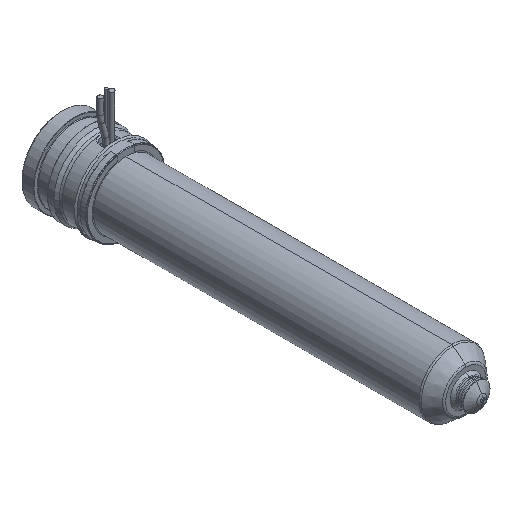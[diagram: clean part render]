
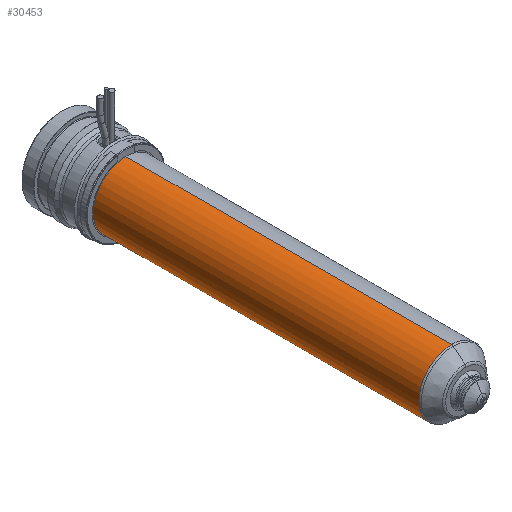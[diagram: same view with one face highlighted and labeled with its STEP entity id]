
A CAD part, isometric view. The second image highlights one B-rep face of the part: STEP entity #30453.
In plain terms, the highlighted cylindrical face has radius 12 mm (diameter 24 mm), a partial arc.
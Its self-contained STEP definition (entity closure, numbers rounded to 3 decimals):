
#29844=CARTESIAN_POINT('',(0.,-143.736,0.));
#29845=DIRECTION('',(0.,-1.,0.));
#29846=DIRECTION('',(0.,0.,1.));
#29847=AXIS2_PLACEMENT_3D('',#29844,#29845,#29846);
#29852=CARTESIAN_POINT('',(0.,-24.,0.));
#29853=DIRECTION('',(0.,1.,0.));
#29854=DIRECTION('',(0.,0.,-1.));
#29855=AXIS2_PLACEMENT_3D('',#29852,#29853,#29854);
#29860=DIRECTION('',(0.,1.,0.));
#29861=VECTOR('',#29860,119.736);
#29862=CARTESIAN_POINT('',(0.,-143.736,12.));
#29863=LINE('',#29862,#29861);
#29875=DIRECTION('',(0.,1.,0.));
#29876=VECTOR('',#29875,119.736);
#29877=CARTESIAN_POINT('',(0.,-143.736,-12.));
#29878=LINE('',#29877,#29876);
#30058=CARTESIAN_POINT('',(0.,-143.736,12.));
#30059=CARTESIAN_POINT('',(0.,-24.,12.));
#30060=VERTEX_POINT('',#30058);
#30061=VERTEX_POINT('',#30059);
#30062=CARTESIAN_POINT('',(0.,-143.736,-12.));
#30063=CARTESIAN_POINT('',(0.,-24.,-12.));
#30064=VERTEX_POINT('',#30062);
#30065=VERTEX_POINT('',#30063);
#30439=CARTESIAN_POINT('',(0.,-13.2,0.));
#30440=DIRECTION('',(0.,-1.,0.));
#30441=DIRECTION('',(0.,0.,1.));
#30442=AXIS2_PLACEMENT_3D('',#30439,#30440,#30441);
#30443=CYLINDRICAL_SURFACE('',#30442,12.);
#30445=ORIENTED_EDGE('',*,*,#30444,.F.);
#30446=ORIENTED_EDGE('',*,*,#30434,.T.);
#30448=ORIENTED_EDGE('',*,*,#30447,.T.);
#30450=ORIENTED_EDGE('',*,*,#30449,.T.);
#30451=EDGE_LOOP('',(#30445,#30446,#30448,#30450));
#30452=FACE_OUTER_BOUND('',#30451,.F.);
#30453=ADVANCED_FACE('',(#30452),#30443,.T.);
#29848=CIRCLE('',#29847,12.);
#29856=CIRCLE('',#29855,12.);
#30434=EDGE_CURVE('',#30060,#30064,#29848,.T.);
#30444=EDGE_CURVE('',#30060,#30061,#29863,.T.);
#30447=EDGE_CURVE('',#30064,#30065,#29878,.T.);
#30449=EDGE_CURVE('',#30065,#30061,#29856,.T.);
